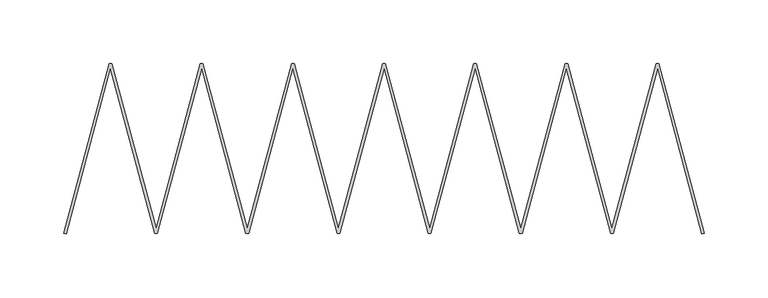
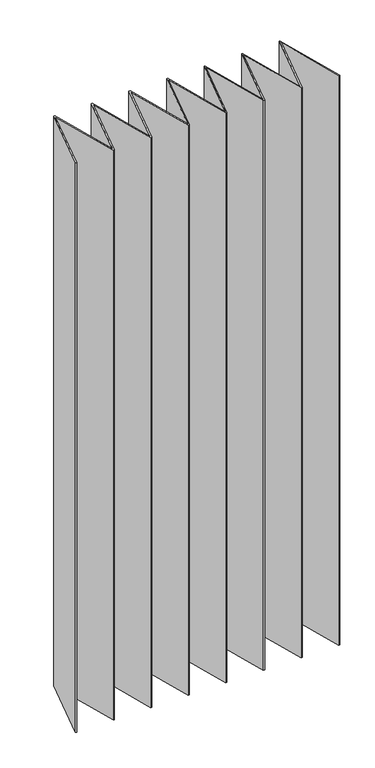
"""IFC4 building model written with IfcOpenShell, lengths in millimetres: furniture geometry, BIMHealth-Curtain_Bed-LOD2A-v1 : BIMHealth-Curtain_Bed-LOD2A-v1."""

from ifc_helpers import new_model, si_unit, origin, origin_with_axes, place, context, project, spatial, polyline, outline, extrude, source, transform, mapped, element, save


def furniture_bce425b9(model_context):
    return source(origin(), model_context, "Body", "SweptSolid", [
        extrude(outline(polyline([(35.8630189, 88.8426086), (37.9335712, 88.8426086), (72.761314, -41.1362967), (107.5890567, 88.8426086), (109.659609, 88.8426086), (144.4873517, -41.1362967), (179.3150944, 88.8426086), (181.3856468, 88.8426086), (216.2133895, -41.1362967), (251.0411322, 88.8426086), (253.1116846, 88.8426086), (287.9394273, -41.1362967), (322.76717, 88.8426086), (324.8377223, 88.8426086), (359.665465, -41.1362967), (394.4932078, 88.8426086), (396.5637601, 88.8426086), (431.3915028, -41.1362967), (466.2192455, 88.8426086), (468.2897979, 88.8426086), (504.1528168, -45.0), (502.2209651, -45.5176381), (467.2545217, 84.9789053), (432.426779, -45.0), (430.3562266, -45.0), (395.5284839, 84.9789053), (360.7007412, -45.0), (358.6301889, -45.0), (323.8024462, 84.9789053), (288.9747035, -45.0), (286.9041511, -45.0), (252.0764084, 84.9789053), (217.2486657, -45.0), (215.1781133, -45.0), (180.3503706, 84.9789053), (145.5226279, -45.0), (143.4520755, -45.0), (108.6243328, 84.9789053), (73.7965901, -45.0), (71.7260378, -45.0), (36.8982951, 84.9789053), (1.9318517, -45.5176381), (0.0, -45.0), (35.8630189, 88.8426086)])), origin_with_axes(), (0.0, 0.0, 1.0), 1150.0),
    ])


if __name__ == "__main__":
    model = new_model("IFC4")
    model_context = context("Model", 3, world=origin())
    ifc_project = project(units=[si_unit("LENGTHUNIT", "METRE", prefix="MILLI")], contexts=[model_context])
    site = spatial("IfcSite", under=ifc_project)
    building = spatial("IfcBuilding", under=site)
    placement = place(None, origin())
    furniture_shape = furniture_bce425b9(model_context)
    element("IfcFurniture", 1, ObjectType="BIMHealth-Curtain_Bed-LOD2A-v1 : BIMHealth-Curtain_Bed-LOD2A-v1", at=placement, inside=building, context=model_context, shape_type="MappedRepresentation", body=[
        mapped(furniture_shape, transform((0.0, 0.0, 0.0), x_axis=(1.0, 0.0, 0.0), y_axis=(0.0, 1.0, 0.0), z_axis=(0.0, 0.0, 1.0))),
    ])
    save(model, "model.ifc")
